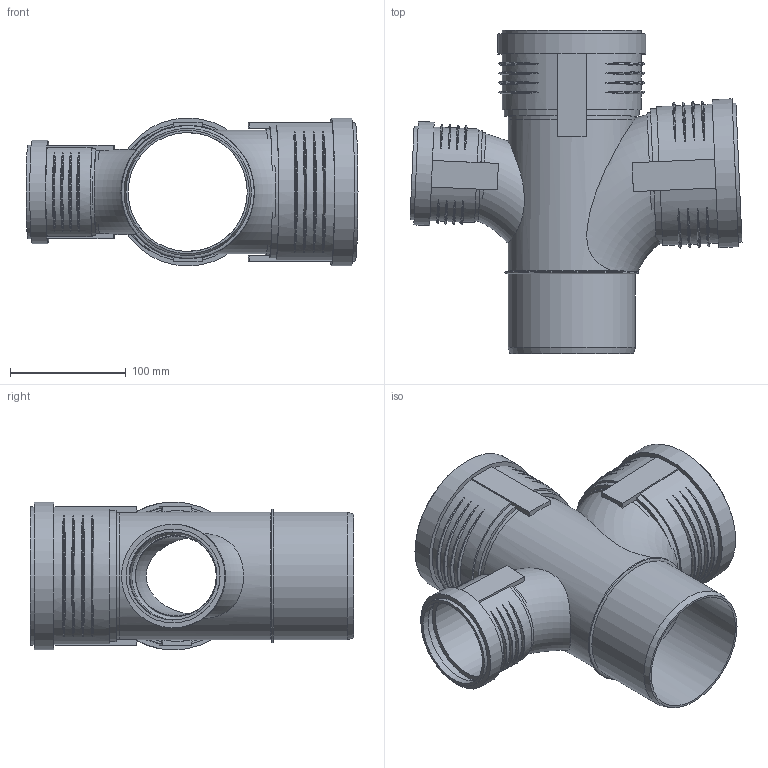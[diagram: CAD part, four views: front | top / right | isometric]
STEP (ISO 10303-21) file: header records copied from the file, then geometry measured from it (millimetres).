
FILE_DESCRIPTION(/* description */ (''),/* implementation_level */ '2;1');
FILE_NAME(/* name */ 'Z:\Geberit\Export\NewStep\390567.stp',/* time_stamp */ '2014-04-02T08:15:00+02:00',/* author */ ('ML'),/* organization */ (''),/* preprocessor_version */ 'ST-DEVELOPER v15.2',/* originating_system */ 'Autodesk Inventor 2014',/* authorisation */ '');
FILE_SCHEMA (('AUTOMOTIVE_DESIGN { 1 0 10303 214 3 1 1 }'));
Length unit declared in the file: millimetre
Products named in the file (4): 861367; 861404; 861402; 390567
Bounding box: 287.37 x 279.9 x 128.1 mm (x, y, z)
Volume: 566867.8 mm3; surface area: 345910 mm2
Topology: 4 solids, 4 shells, 198 faces, 478 edges, 326 vertices
Faces by surface type: torus 79, plane 69, cylinder 46, cone 4
Full cylindrical faces by diameter (mm): 70 x1, 70.2 x1, 75.2 x2, 76.2 x2, 81.2 x1, 84.6 x1, 89.6 x1, 103 x2, 103.2 x2, 110.2 x5, 113.3 x4, 120.3 x2, 121.1 x2, 128.1 x2
Entity records: 5969 total; most frequent: CARTESIAN_POINT 2688, ORIENTED_EDGE 600, DIRECTION 598, EDGE_CURVE 300, AXIS2_PLACEMENT_3D 263, VERTEX_POINT 221, EDGE_LOOP 211, STYLED_ITEM 146
